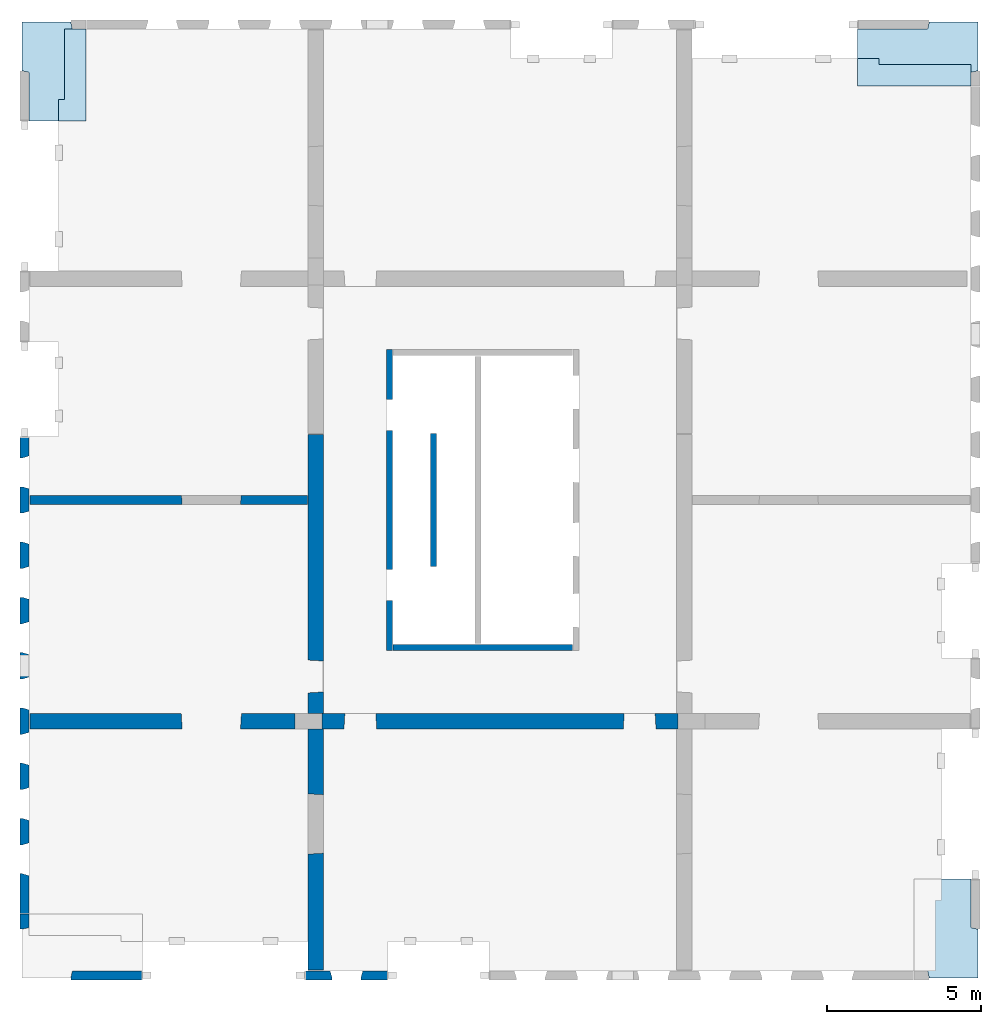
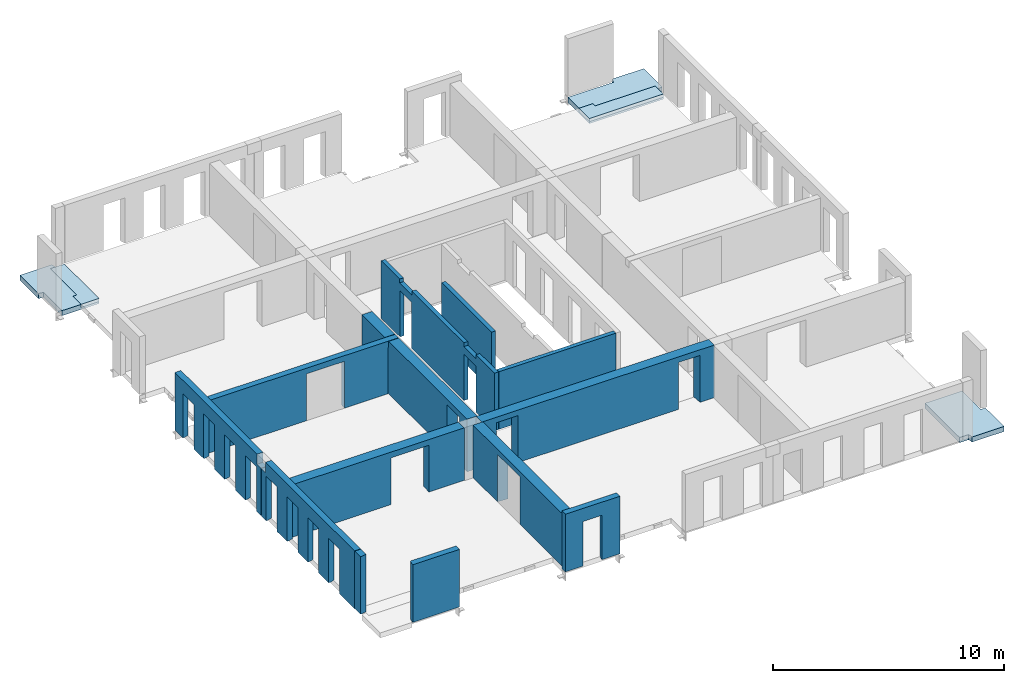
# One storey, part 2 of 4: 13 walls, 5 slabs, 25 openings.
"""IFC2X3 building model written with IfcOpenShell, lengths in millimetres."""

import ifcopenshell
import ifcopenshell.guid

model = None  # the IFC model being written
_history = None  # IfcOwnerHistory: only IFC2X3 demands one
_inside = {}  # id of a spatial element -> (the spatial element, [elements in it])
_under = {}  # id of a project, library or spatial element -> (it, [spatial elements below it])
_declared = {}  # id of a project -> (the project, [libraries it declares])
_typed = {}  # id of a type object -> (the type object, [elements of that type])
_made_of = {}  # id of a material, layer set ... -> (it, [elements and type objects made of it])


def new_model(schema):
    """Start an empty IFC model of exactly this schema.

    Asked for "IFC4X3", IfcOpenShell would pick the latest addendum, in which some entities
    have other attributes; the version numbers below select the first issue.
    IFC2X3 requires an IfcOwnerHistory on every rooted entity: one is made here for all.
    """
    global model, _history
    if schema == "IFC4X3":
        model = ifcopenshell.file(schema_version=(4, 3, 0, 0))
    else:
        model = ifcopenshell.file(schema=schema)
    _inside.clear()
    _under.clear()
    _declared.clear()
    _typed.clear()
    _made_of.clear()
    _history = None
    if model.schema == "IFC2X3":
        org = make("IfcOrganization", Name="unknown")
        user = make(
            "IfcPersonAndOrganization",
            ThePerson=make("IfcPerson", FamilyName="unknown"),
            TheOrganization=org,
        )
        app = make(
            "IfcApplication",
            ApplicationDeveloper=org,
            Version="unknown",
            ApplicationFullName="unknown",
            ApplicationIdentifier="unknown",
        )
        _history = make(
            "IfcOwnerHistory",
            OwningUser=user,
            OwningApplication=app,
            ChangeAction="ADDED",
            CreationDate=0,
        )
    return model


def make(cls, **values):
    """One entity of the class cls with the attributes given. An attribute that is None is left unset."""
    return model.create_entity(
        cls, **{name: value for name, value in values.items() if value is not None}
    )


def entity(cls, *values):
    """Any entity or typed value of the class cls, its attributes in the order of the schema. None: left unset."""
    e = model.create_entity(cls)
    for i, value in enumerate(values):
        if value is not None:
            e[i] = value
    return e


def rooted(cls, **values):
    """An entity with a GlobalId (a new one), such as an element, a storey or a relation."""
    return make(cls, GlobalId=ifcopenshell.guid.new(), OwnerHistory=_history, **values)


def si_unit(unit_type, name, prefix=None):
    """IfcSIUnit, for example si_unit("LENGTHUNIT", "METRE", prefix="MILLI")."""
    return make("IfcSIUnit", UnitType=unit_type, Prefix=prefix, Name=name)


def converted_unit(unit_type, name, factor, base, dimensions=None, offset=None):
    """IfcConversionBasedUnit, such as the inch: factor (a typed value) times the base unit."""
    return make(
        "IfcConversionBasedUnit"
        if offset is None
        else "IfcConversionBasedUnitWithOffset",
        ConversionOffset=offset,
        Dimensions=None
        if dimensions is None
        else entity("IfcDimensionalExponents", *dimensions),
        UnitType=unit_type,
        Name=name,
        ConversionFactor=make(
            "IfcMeasureWithUnit", ValueComponent=factor, UnitComponent=base
        ),
    )


def derived_unit(unit_type, elements):
    """IfcDerivedUnit: a product of units, each with its exponent."""
    return make(
        "IfcDerivedUnit",
        Elements=[
            make("IfcDerivedUnitElement", Unit=unit, Exponent=power)
            for unit, power in elements
        ],
        UnitType=unit_type,
    )


def assignment(units):
    """IfcUnitAssignment: the units of a project."""
    return None if units is None else make("IfcUnitAssignment", Units=units)


def point(xyz):
    """IfcCartesianPoint."""
    return None if xyz is None else make("IfcCartesianPoint", Coordinates=xyz)


def direction(xyz):
    """IfcDirection."""
    return None if xyz is None else make("IfcDirection", DirectionRatios=xyz)


def frame(location, z_axis=None, x_axis=None):
    """IfcAxis2Placement3D, a coordinate frame: its origin and axes. An axis left out is left unset."""
    return make(
        "IfcAxis2Placement3D",
        Location=point(location),
        Axis=direction(z_axis),
        RefDirection=direction(x_axis),
    )


def frame_2d(location, x_axis=None):
    """IfcAxis2Placement2D, a coordinate frame in the plane: its origin and x axis."""
    return make(
        "IfcAxis2Placement2D", Location=point(location), RefDirection=direction(x_axis)
    )


def origin():
    """The frame at (0, 0, 0) with its axes left unset."""
    return frame((0.0, 0.0, 0.0))


def place(relative_to, where):
    """IfcLocalPlacement: puts the frame where relative to a parent placement (None: the world)."""
    return make(
        "IfcLocalPlacement", PlacementRelTo=relative_to, RelativePlacement=where
    )


def context(
    kind, dimensions, precision=None, world=None, true_north=None, identifier=None
):
    """IfcGeometricRepresentationContext, for example the 3D "Model" context."""
    return make(
        "IfcGeometricRepresentationContext",
        ContextIdentifier=identifier,
        ContextType=kind,
        CoordinateSpaceDimension=dimensions,
        Precision=precision,
        WorldCoordinateSystem=world,
        TrueNorth=true_north,
    )


def subcontext(parent, identifier, kind, view, scale=None):
    """IfcGeometricRepresentationSubContext, for example "Body" below "Model"."""
    return make(
        "IfcGeometricRepresentationSubContext",
        ContextIdentifier=identifier,
        ContextType=kind,
        ParentContext=parent,
        TargetScale=scale,
        TargetView=view,
    )


def project(units=None, contexts=None):
    """IfcProject with its units and contexts."""
    return rooted(
        "IfcProject",
        Name="project",
        RepresentationContexts=contexts,
        UnitsInContext=assignment(units),
    )


def spatial(cls, under=None, at=None, **own):
    """A site, building, storey or space (cls), placed at a placement, below another one or the project."""
    s = rooted(cls, ObjectPlacement=at, **own)
    if under is not None:
        _under.setdefault(under.id(), (under, []))[1].append(s)
    return s


def polyline(points):
    """IfcPolyline through the points."""
    return make("IfcPolyline", Points=[point(p) for p in points])


def profile(cls, at=None, kind="AREA", **sizes):
    """A parametric profile (cls). Its sizes go by their IFC names, for example OverallWidth=200.0."""
    return make(cls, ProfileType=kind, Position=at, **sizes)


def rectangle(**sizes):
    """IfcRectangleProfileDef."""
    return profile("IfcRectangleProfileDef", **sizes)


def outline(outer, holes=None, kind="AREA"):
    """IfcArbitraryClosedProfileDef: a profile drawn as a closed curve; with holes, ...WithVoids."""
    if holes is None:
        return make("IfcArbitraryClosedProfileDef", ProfileType=kind, OuterCurve=outer)
    return make(
        "IfcArbitraryProfileDefWithVoids",
        ProfileType=kind,
        OuterCurve=outer,
        InnerCurves=holes,
    )


def extrude(swept, where, along, depth):
    """IfcExtrudedAreaSolid: the profile swept, set in the frame where, extruded along a direction by depth."""
    return make(
        "IfcExtrudedAreaSolid",
        SweptArea=swept,
        Position=where,
        ExtrudedDirection=direction(along),
        Depth=depth,
    )


def faces_of(points, faces, orient=None, outer=None):
    """IfcFace entities. A face is a list of loops; a loop is a list of indices into points, from 0.

    orient and outer hold one flag for each loop. By default every Orientation is true, the
    first loop of a face is its IfcFaceOuterBound and the others are IfcFaceBound.
    """
    made = []
    for i, loops in enumerate(faces):
        bounds = []
        for j, loop in enumerate(loops):
            is_outer = j == 0 if outer is None else outer[i][j]
            bounds.append(
                make(
                    "IfcFaceOuterBound" if is_outer else "IfcFaceBound",
                    Bound=make("IfcPolyLoop", Polygon=[points[k] for k in loop]),
                    Orientation=True if orient is None else orient[i][j],
                )
            )
        made.append(make("IfcFace", Bounds=bounds))
    return made


def faceted_brep(points, faces, orient=None, outer=None, voids=None):
    """IfcFacetedBrep: a solid bounded by flat faces; with voids (closed shells), ...WithVoids."""
    shared = [point(p) for p in points]
    hull = make("IfcClosedShell", CfsFaces=faces_of(shared, faces, orient, outer))
    if voids is None:
        return make("IfcFacetedBrep", Outer=hull)
    return make(
        "IfcFacetedBrepWithVoids",
        Outer=hull,
        Voids=[
            make(cls, CfsFaces=faces_of(shared, fs, o, b)) for cls, fs, o, b in voids
        ],
    )


def shape(context_of_items, identifier, shape_type, items):
    """IfcShapeRepresentation: the items that make up one representation, for example the "Body"."""
    return make(
        "IfcShapeRepresentation",
        ContextOfItems=context_of_items,
        RepresentationIdentifier=identifier,
        RepresentationType=shape_type,
        Items=items,
    )


def material(Name=None, Category=None):
    """IfcMaterial."""
    return make("IfcMaterial", Name=Name, Category=Category)


def layer(
    of_material, thickness, ventilated=None, Name=None, Category=None, Priority=None
):
    """IfcMaterialLayer: one layer of a wall or slab, of a material (None: an air gap)."""
    return make(
        "IfcMaterialLayer",
        Material=of_material,
        LayerThickness=thickness,
        IsVentilated=ventilated,
        Name=Name,
        Category=Category,
        Priority=Priority,
    )


def layer_set(layers, Name=None):
    """IfcMaterialLayerSet."""
    return make("IfcMaterialLayerSet", MaterialLayers=layers, LayerSetName=Name)


def layer_usage(for_layer_set, set_direction, sense, offset, extent=None):
    """IfcMaterialLayerSetUsage: how a layer set lies in its element."""
    return make(
        "IfcMaterialLayerSetUsage",
        ForLayerSet=for_layer_set,
        LayerSetDirection=set_direction,
        DirectionSense=sense,
        OffsetFromReferenceLine=offset,
        ReferenceExtent=extent,
    )


def made_of(thing, what):
    """Note that an element or type object is made of a material, layer set ...; save() writes the relation."""
    if what is not None:
        _made_of.setdefault(what.id(), (what, []))[1].append(thing)
    return thing


def type_object(cls, material=None, **own):
    """A type object (cls), such as IfcWallType, which elements share."""
    return made_of(rooted(cls, **own), material)


def element(
    cls,
    number,
    at=None,
    inside=None,
    cuts=None,
    type_object=None,
    material=None,
    context=None,
    identifier="Body",
    shape_type=None,
    held_by="IfcProductDefinitionShape",
    body=None,
    shapes=None,
    **own,
):
    """One element of the class cls, such as IfcWall. Its Tag is "e" and its number.

    at: its placement. inside: the storey or other place that contains it. cuts: it is an
    opening in that element (IfcRelVoidsElement). A single representation is given by context,
    identifier, shape_type and body (its items); several are given by shapes. held_by: the class
    of the entity that holds the representations. save() writes the other relations.
    """
    e = rooted(cls, Tag="e%d" % number, ObjectPlacement=at, **own)
    if body is not None:
        shapes = [shape(context, identifier, shape_type, body)]
    if shapes is not None:
        e.Representation = make(held_by, Representations=shapes)
    if inside is not None:
        _inside.setdefault(inside.id(), (inside, []))[1].append(e)
    if cuts is not None:
        rooted(
            "IfcRelVoidsElement", RelatingBuildingElement=cuts, RelatedOpeningElement=e
        )
    if type_object is not None:
        _typed.setdefault(type_object.id(), (type_object, []))[1].append(e)
    return made_of(e, material)


def aggregate(whole, parts):
    """IfcRelAggregates: a whole, such as a stair, and the parts it consists of."""
    return rooted("IfcRelAggregates", RelatingObject=whole, RelatedObjects=parts)


def save(model, path):
    """Write the relations noted so far, then the file.

    IfcRelAggregates (storeys below a building ...), IfcRelContainedInSpatialStructure (elements
    in a storey), IfcRelDefinesByType, IfcRelAssociatesMaterial and IfcRelDeclares: one each for
    every whole, place, type object, material and project.
    """
    for whole, parts in _under.values():
        aggregate(whole, parts)
    for where, things in _inside.values():
        rooted(
            "IfcRelContainedInSpatialStructure",
            RelatedElements=things,
            RelatingStructure=where,
        )
    for kind, things in _typed.values():
        rooted("IfcRelDefinesByType", RelatedObjects=things, RelatingType=kind)
    for what, things in _made_of.values():
        rooted("IfcRelAssociatesMaterial", RelatedObjects=things, RelatingMaterial=what)
    for by, libraries in _declared.values():
        rooted("IfcRelDeclares", RelatingContext=by, RelatedDefinitions=libraries)
    model.write(path)


model = new_model("IFC2X3")

# Units and contexts
model_context = context("Model", 3, precision=0.01, world=origin(), true_north=direction((6.12303176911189e-17, 1.0)))
body_context = subcontext(model_context, "Body", "Model", "MODEL_VIEW")
ifc_project = project(units=[si_unit("LENGTHUNIT", "METRE", prefix="MILLI"), si_unit("AREAUNIT", "SQUARE_METRE"), si_unit("VOLUMEUNIT", "CUBIC_METRE"), converted_unit("PLANEANGLEUNIT", "DEGREE", entity("IfcRatioMeasure", 0.0174532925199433), si_unit("PLANEANGLEUNIT", "RADIAN"), dimensions=[0, 0, 0, 0, 0, 0, 0]), si_unit("MASSUNIT", "GRAM", prefix="KILO"), derived_unit("MASSDENSITYUNIT", [(si_unit("MASSUNIT", "GRAM", prefix="KILO"), 1), (si_unit("LENGTHUNIT", "METRE"), -3)]), si_unit("TIMEUNIT", "SECOND"), si_unit("FREQUENCYUNIT", "HERTZ"), si_unit("THERMODYNAMICTEMPERATUREUNIT", "DEGREE_CELSIUS"), derived_unit("THERMALTRANSMITTANCEUNIT", [(si_unit("MASSUNIT", "GRAM", prefix="KILO"), 1), (si_unit("THERMODYNAMICTEMPERATUREUNIT", "KELVIN"), -1), (si_unit("TIMEUNIT", "SECOND"), -3)]), derived_unit("VOLUMETRICFLOWRATEUNIT", [(si_unit("LENGTHUNIT", "METRE"), 3), (si_unit("TIMEUNIT", "SECOND"), -1)]), si_unit("ELECTRICCURRENTUNIT", "AMPERE"), si_unit("ELECTRICVOLTAGEUNIT", "VOLT"), si_unit("POWERUNIT", "WATT"), si_unit("FORCEUNIT", "NEWTON", prefix="KILO"), si_unit("ILLUMINANCEUNIT", "LUX"), si_unit("LUMINOUSFLUXUNIT", "LUMEN"), si_unit("LUMINOUSINTENSITYUNIT", "CANDELA"), derived_unit("USERDEFINED", [(si_unit("MASSUNIT", "GRAM", prefix="KILO"), -1), (si_unit("LENGTHUNIT", "METRE"), -2), (si_unit("TIMEUNIT", "SECOND"), 3), (si_unit("LUMINOUSFLUXUNIT", "LUMEN"), 1)]), derived_unit("LINEARVELOCITYUNIT", [(si_unit("LENGTHUNIT", "METRE"), 1), (si_unit("TIMEUNIT", "SECOND"), -1)]), si_unit("PRESSUREUNIT", "PASCAL"), derived_unit("USERDEFINED", [(si_unit("LENGTHUNIT", "METRE"), -2), (si_unit("MASSUNIT", "GRAM", prefix="KILO"), 1), (si_unit("TIMEUNIT", "SECOND"), -2)])], contexts=[model_context])

# Site, building, storey
site_placement = place(None, origin())
site = spatial("IfcSite", under=ifc_project, at=site_placement, Name="Default", CompositionType="ELEMENT")
building_placement = place(site_placement, origin())
building = spatial("IfcBuilding", under=site, at=building_placement, Name="niet gebruiken", CompositionType="ELEMENT")
storey_placement = place(building_placement, frame((0.0, 0.0, 45540.0)))
storey = spatial("IfcBuildingStorey", under=building, at=storey_placement, Name="14 veertiende verdieping", CompositionType="ELEMENT", Elevation=45540.0)

# Slabs
ifc_material_1 = material(Name="NLRS_f2_beton prefab")
ifc_layer_1 = layer(ifc_material_1, 270.0)
ifc_layer_set_1 = layer_set([ifc_layer_1], Name="Floor:NLRS_23.22_FL_beton prefab d=270 3D element_gen")
ifc_layer_usage_1 = layer_usage(ifc_layer_set_1, "AXIS3", "POSITIVE", 0.0)
slab_1_placement = place(storey_placement, origin())
element("IfcSlab", 1, at=slab_1_placement, inside=storey, material=ifc_layer_usage_1, Name="Floor:NLRS_23.22_FL_beton prefab d=270 3D element_gen", ObjectType="Floor:NLRS_23.22_FL_beton prefab d=270 3D element_gen", PredefinedType="LANDING", context=body_context, shape_type="SweptSolid", body=[
    extrude(outline(polyline([(-322.675940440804, -982.471394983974), (1267.47139498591, -982.471394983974), (1267.47139498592, 607.675940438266), (1034.47139498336, 655.152429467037), (1034.47139498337, 1100.5286050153), (-1955.52860501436, 1100.52860501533), (-1955.52860501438, -749.471394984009), (-370.152429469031, -749.471394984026), (-322.675940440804, -982.471394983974)])), frame((127169.471394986, 31795.5286050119, -90.0), z_axis=(0.0, 0.0, -1.0), x_axis=(0.0, 1.0, 0.0)), (0.0, 0.0, 1.0), 269.999999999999),
])
ifc_material_2 = material(Name="NLRS_f2_beton ihwg")
ifc_layer_2 = layer(ifc_material_2, 170.0)
ifc_layer_set_2 = layer_set([ifc_layer_2], Name="Floor:NLRS_23.21_FL_beton ihwg d=170_gen")
ifc_layer_usage_2 = layer_usage(ifc_layer_set_2, "AXIS3", "POSITIVE", 0.0)
slab_2_placement = place(storey_placement, origin())
element("IfcSlab", 2, at=slab_2_placement, inside=storey, material=ifc_layer_usage_2, Name="Floor:NLRS_23.21_FL_beton ihwg d=170_gen", ObjectType="Floor:NLRS_23.21_FL_beton ihwg d=170_gen", PredefinedType="FLOOR", context=body_context, shape_type="SweptSolid", body=[
    extrude(outline(polyline([(-1230.0, -366.666666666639), (-530.0, -366.666666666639), (-530.0, -166.66666666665), (1760.0, -166.666666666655), (1760.0, 533.333333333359), (-1230.0, 533.333333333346), (-1230.0, -366.666666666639)])), frame((127736.666666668, 31070.0, -90.0), z_axis=(0.0, 0.0, -1.0), x_axis=(0.0, 1.0, 0.0)), (0.0, 0.0, 1.0), 169.999999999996),
])
ifc_layer_usage_3 = layer_usage(ifc_layer_set_1, "AXIS3", "POSITIVE", 0.0)
slab_3_placement = place(storey_placement, origin())
element("IfcSlab", 3, at=slab_3_placement, inside=storey, material=ifc_layer_usage_3, Name="Floor:NLRS_23.22_FL_beton prefab d=270 3D element_gen", ObjectType="Floor:NLRS_23.22_FL_beton prefab d=270 3D element_gen", PredefinedType="LANDING", context=body_context, shape_type="SweptSolid", body=[
    extrude(outline(polyline([(-1034.47139498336, -1100.52860501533), (1955.52860501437, -1100.52860501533), (1955.52860501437, 749.471394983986), (370.152429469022, 749.471394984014), (322.675940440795, 982.471394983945), (-1267.47139498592, 982.471394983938), (-1267.47139498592, -607.675940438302), (-1034.47139498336, -655.152429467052), (-1034.47139498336, -1100.52860501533)])), frame((156330.528605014, 3204.47139498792, -90.0), z_axis=(0.0, 0.0, -1.0), x_axis=(0.0, 1.0, 0.0)), (0.0, 0.0, 1.0), 269.999999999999),
])
ifc_layer_usage_4 = layer_usage(ifc_layer_set_1, "AXIS3", "POSITIVE", 0.0)
slab_4_placement = place(storey_placement, origin())
element("IfcSlab", 4, at=slab_4_placement, inside=storey, material=ifc_layer_usage_4, Name="Floor:NLRS_23.22_FL_beton prefab d=270 3D element_gen", ObjectType="Floor:NLRS_23.22_FL_beton prefab d=270 3D element_gen", PredefinedType="LANDING", context=body_context, shape_type="SweptSolid", body=[
    extrude(outline(polyline([(-1100.52860501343, -2480.52860501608), (749.471394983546, -2480.52860501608), (749.471394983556, -195.152429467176), (982.471394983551, -147.675940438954), (982.471394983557, 1442.47139498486), (-607.675940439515, 1442.47139498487), (-655.152429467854, 1209.47139498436), (-1100.52860501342, 1209.47139498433), (-1100.52860501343, -2480.52860501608)])), frame((155870.528605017, 32080.5286050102, -90.0), z_axis=(0.0, 0.0, -1.0), x_axis=(0.0, 1.0, 0.0)), (0.0, 0.0, 1.0), 269.999999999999),
])
ifc_layer_usage_5 = layer_usage(ifc_layer_set_2, "AXIS3", "POSITIVE", 0.0)
slab_5_placement = place(storey_placement, origin())
element("IfcSlab", 5, at=slab_5_placement, inside=storey, material=ifc_layer_usage_5, Name="Floor:NLRS_23.21_FL_beton ihwg d=170_gen", ObjectType="Floor:NLRS_23.21_FL_beton ihwg d=170_gen", PredefinedType="FLOOR", context=body_context, shape_type="SweptSolid", body=[
    extrude(outline(polyline([(-533.333333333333, -1463.33333333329), (366.666666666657, -1463.33333333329), (366.666666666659, -763.333333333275), (166.66666666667, -763.333333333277), (166.666666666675, 2226.66666666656), (-533.333333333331, 2226.66666666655), (-533.333333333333, -1463.33333333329)])), frame((154853.333333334, 31513.3333333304, -90.0), z_axis=(0.0, 0.0, -1.0), x_axis=(0.0, 1.0, 0.0)), (0.0, 0.0, 1.0), 169.999999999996),
])

# Wall, openings
ifc_layer_3 = layer(ifc_material_1, 200.0)
ifc_layer_set_3 = layer_set([ifc_layer_3], Name="Basic Wall:NLRS_22.21_WA_beton prefab d=200_gen")
ifc_layer_usage_6 = layer_usage(ifc_layer_set_3, "AXIS2", "NEGATIVE", 100.0)
wall_type_1 = type_object("IfcWallType", Name="Basic Wall:NLRS_22.21_WA_beton prefab d=200_gen", PredefinedType="STANDARD", material=ifc_layer_set_3)
wall_1_placement = place(storey_placement, frame((138150.0, 22400.0, -50.0), z_axis=(0.0, 0.0, 1.0), x_axis=(0.0, -1.0, 0.0)))
wall_1 = element("IfcWallStandardCase", 6, at=wall_1_placement, inside=storey, type_object=wall_type_1, material=ifc_layer_usage_6, Name="Basic Wall:NLRS_22.21_WA_beton prefab d=200_gen", ObjectType="Basic Wall:NLRS_22.21_WA_beton prefab d=200_gen", context=body_context, shape_type="SweptSolid", body=[
    extrude(rectangle(XDim=9800.0, YDim=199.999999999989, at=frame_2d((4900.0, 3.76587649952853e-13), x_axis=(-1.0, 0.0))), origin(), (0.0, 0.0, 1.0), 3040.0),
])
opening_1_placement = place(wall_1_placement, origin())
element("IfcOpeningElement", 7, at=opening_1_placement, cuts=wall_1, Name="Basic Wall:NLRS_22.21_WA_beton prefab d=200_gen", ObjectType="Opening", context=body_context, shape_type="SweptSolid", body=[
    extrude(rectangle(XDim=199.999999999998, YDim=1044.0, at=frame_2d((4.33431068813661e-12, 0.0), x_axis=(1.0, 0.0))), frame((7672.0, -100.0, 2940.0), z_axis=(0.0, 1.0, 0.0), x_axis=(0.0, 0.0, -1.0)), (0.0, 0.0, 1.0), 199.999999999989),
])
opening_2_placement = place(wall_1_placement, origin())
element("IfcOpeningElement", 8, at=opening_2_placement, cuts=wall_1, Name="Basic Wall:NLRS_22.21_WA_beton prefab d=200_gen", ObjectType="Opening", context=body_context, shape_type="SweptSolid", body=[
    extrude(rectangle(XDim=199.999999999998, YDim=1044.0, at=frame_2d((4.33431068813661e-12, 2.1600499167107e-12), x_axis=(1.0, 0.0))), frame((2128.0, -100.0, 2940.0), z_axis=(0.0, 1.0, 0.0), x_axis=(0.0, 0.0, -1.0)), (0.0, 0.0, 1.0), 199.999999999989),
])
opening_3_placement = place(wall_1_placement, origin())
element("IfcOpeningElement", 9, at=opening_3_placement, cuts=wall_1, Name="Basic Wall:NLRS_22.21_WA_beton prefab d=200_gen", ObjectType="Opening", context=body_context, shape_type="SweptSolid", body=[
    extrude(rectangle(XDim=2435.00000000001, YDim=1015.99999999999, at=frame_2d((4.32009983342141e-12, 1.10844666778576e-12), x_axis=(1.0, 0.0))), frame((7672.0, -100.0, 1217.50000000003), z_axis=(0.0, 1.0, 0.0), x_axis=(0.0, 0.0, -1.0)), (0.0, 0.0, 1.0), 199.999999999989),
])
opening_4_placement = place(wall_1_placement, origin())
element("IfcOpeningElement", 10, at=opening_4_placement, cuts=wall_1, Name="Basic Wall:NLRS_22.21_WA_beton prefab d=200_gen", ObjectType="Opening", context=body_context, shape_type="SweptSolid", body=[
    extrude(rectangle(XDim=2435.00000000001, YDim=1015.99999999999, at=frame_2d((4.32009983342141e-12, -2.18847162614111e-12), x_axis=(1.0, 0.0))), frame((2128.0, -100.0, 1217.50000000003), z_axis=(0.0, 1.0, 0.0), x_axis=(0.0, 0.0, -1.0)), (0.0, 0.0, 1.0), 199.999999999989),
])

# Walls
ifc_layer_usage_7 = layer_usage(ifc_layer_set_3, "AXIS2", "NEGATIVE", 100.0)
wall_2_placement = place(storey_placement, frame((139590.0, 19660.0, -50.0), z_axis=(0.0, 0.0, 1.0), x_axis=(0.0, -1.0, 0.0)))
element("IfcWallStandardCase", 11, at=wall_2_placement, inside=storey, type_object=wall_type_1, material=ifc_layer_usage_7, Name="Basic Wall:NLRS_22.21_WA_beton prefab d=200_gen", ObjectType="Basic Wall:NLRS_22.21_WA_beton prefab d=200_gen", context=body_context, shape_type="SweptSolid", body=[
    extrude(rectangle(XDim=4320.00000000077, YDim=199.999999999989, at=frame_2d((2160.00000000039, 0.0), x_axis=(-1.0, 0.0))), origin(), (0.0, 0.0, 1.0), 3040.0),
])
ifc_layer_usage_8 = layer_usage(ifc_layer_set_3, "AXIS2", "NEGATIVE", 100.0)
wall_3_placement = place(storey_placement, frame((138270.0, 12700.0, -50.0)))
element("IfcWallStandardCase", 12, at=wall_3_placement, inside=storey, type_object=wall_type_1, material=ifc_layer_usage_8, Name="Basic Wall:NLRS_22.21_WA_beton prefab d=200_gen", ObjectType="Basic Wall:NLRS_22.21_WA_beton prefab d=200_gen", context=body_context, shape_type="SweptSolid", body=[
    extrude(rectangle(XDim=5839.99999999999, YDim=199.999999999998, at=frame_2d((2919.99999999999, -6.82121026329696e-13), x_axis=(-1.0, 0.0))), origin(), (0.0, 0.0, 1.0), 3040.0),
])

# Wall, openings
ifc_layer_4 = layer(ifc_material_1, 300.0)
ifc_layer_set_4 = layer_set([ifc_layer_4], Name="Basic Wall:NLRS_22.21_WA_beton prefab d=300_gen")
ifc_layer_usage_9 = layer_usage(ifc_layer_set_4, "AXIS2", "NEGATIVE", 150.0)
wall_type_2 = type_object("IfcWallType", Name="Basic Wall:NLRS_22.21_WA_beton prefab d=300_gen", PredefinedType="STANDARD", material=ifc_layer_set_4)
wall_4_placement = place(storey_placement, frame((126440.0, 17500.0, -70.0)))
wall_4 = element("IfcWallStandardCase", 13, at=wall_4_placement, inside=storey, type_object=wall_type_2, material=ifc_layer_usage_9, Name="Basic Wall:NLRS_22.21_WA_beton prefab d=300_gen", ObjectType="Basic Wall:NLRS_22.21_WA_beton prefab d=300_gen", context=body_context, shape_type="SweptSolid", body=[
    extrude(rectangle(XDim=9559.99999999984, YDim=300.000000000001, at=frame_2d((4779.99999999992, 4.68958205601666e-13), x_axis=(-1.0, 0.0))), origin(), (0.0, 0.0, 1.0), 2769.99999999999),
])
opening_5_placement = place(wall_4_placement, frame((4942.0, -150.0, 0.0)))
element("IfcOpeningElement", 14, at=opening_5_placement, cuts=wall_4, Name="Basic Wall:NLRS_22.21_WA_beton prefab d=300_gen", ObjectType="Opening", context=body_context, shape_type="Brep", body=[
    faceted_brep([(1918.0, 0.0, 2470.0), (18.0, 0.0, 2470.0), (18.0, 0.0, 0.0), (1918.0, 0.0, 0.0), (1936.0, 300.0, 2488.0), (1936.0, 300.0, 0.0), (0.0, 300.0, 0.0), (0.0, 300.0, 2488.0)], [[[0, 1, 2, 3]], [[4, 5, 6, 7]], [[4, 7, 1, 0]], [[7, 6, 2, 1]], [[6, 5, 3, 2]], [[5, 4, 0, 3]]]),
])
opening_6_placement = place(wall_4_placement, origin())
element("IfcOpeningElement", 15, at=opening_6_placement, cuts=wall_4, Name="Basic Wall:NLRS_22.21_WA_beton prefab d=300_gen", ObjectType="Opening", context=body_context, shape_type="SweptSolid", body=[
    extrude(rectangle(XDim=2440.0, YDim=520.00000000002, at=frame_2d((0.0, 0.0), x_axis=(0.0, 1.0))), frame((9300.0, 150.0, 1220.0), z_axis=(0.0, -1.0, 0.0), x_axis=(1.0, 0.0, 0.0)), (0.0, 0.0, 1.0), 300.0),
])

ifc_layer_5 = layer(ifc_material_1, 500.0)
ifc_layer_set_5 = layer_set([ifc_layer_5], Name="Basic Wall:NLRS_22.21_WA_beton prefab d=500_gen")
ifc_layer_usage_10 = layer_usage(ifc_layer_set_5, "AXIS2", "NEGATIVE", 250.0)
wall_type_3 = type_object("IfcWallType", Name="Basic Wall:NLRS_22.21_WA_beton prefab d=500_gen", PredefinedType="STANDARD", material=ifc_layer_set_5)
wall_5_placement = place(storey_placement, frame((135950.003540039, 10300.0, -70.0)))
wall_5 = element("IfcWallStandardCase", 16, at=wall_5_placement, inside=storey, type_object=wall_type_3, material=ifc_layer_usage_10, Name="Basic Wall:NLRS_22.21_WA_beton prefab d=500_gen", ObjectType="Basic Wall:NLRS_22.21_WA_beton prefab d=500_gen", context=body_context, shape_type="SweptSolid", body=[
    extrude(rectangle(XDim=11599.9964599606, YDim=499.999999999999, at=frame_2d((5799.99822998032, 1.4210854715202e-13), x_axis=(-1.0, 0.0))), origin(), (0.0, 0.0, 1.0), 2770.00000000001),
])
opening_7_placement = place(wall_5_placement, frame((719.996459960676, -250.0, 0.0)))
element("IfcOpeningElement", 17, at=opening_7_placement, cuts=wall_5, Name="Basic Wall:NLRS_22.21_WA_beton prefab d=500_gen", ObjectType="Opening", context=body_context, shape_type="Brep", body=[
    faceted_brep([(0.0, 0.0, 2478.0), (30.0, 500.0, 2448.0), (30.0, 500.0, 0.0), (0.0, 0.0, 0.0), (1036.0, 500.0, 0.0), (1066.0, 0.0, 0.0), (1036.0, 500.0, 2448.0), (1066.0, 0.0, 2478.0)], [[[0, 1, 2, 3]], [[3, 2, 4, 5]], [[6, 4, 2, 1]], [[7, 0, 3, 5]], [[7, 6, 1, 0]], [[5, 4, 6, 7]]]),
])
opening_8_placement = place(wall_5_placement, frame((9813.99645996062, -250.0, 0.0)))
element("IfcOpeningElement", 18, at=opening_8_placement, cuts=wall_5, Name="Basic Wall:NLRS_22.21_WA_beton prefab d=500_gen", ObjectType="Opening", context=body_context, shape_type="Brep", body=[
    faceted_brep([(0.0, 0.0, 2478.0), (30.0, 500.0, 2448.0), (30.0, 500.0, 0.0), (0.0, 0.0, 0.0), (1036.0, 500.0, 0.0), (1066.0, 0.0, 0.0), (1036.0, 500.0, 2448.0), (1066.0, 0.0, 2478.0)], [[[0, 1, 2, 3]], [[3, 2, 4, 5]], [[6, 4, 2, 1]], [[7, 0, 3, 5]], [[7, 6, 1, 0]], [[5, 4, 6, 7]]]),
])

ifc_layer_usage_11 = layer_usage(ifc_layer_set_5, "AXIS2", "NEGATIVE", 250.0)
wall_6_placement = place(storey_placement, frame((135750.0, 19640.0, -70.0), z_axis=(0.0, 0.0, 1.0), x_axis=(0.0, -1.0, 0.0)))
wall_6 = element("IfcWallStandardCase", 19, at=wall_6_placement, inside=storey, type_object=wall_type_3, material=ifc_layer_usage_11, Name="Basic Wall:NLRS_22.21_WA_beton prefab d=500_gen", ObjectType="Basic Wall:NLRS_22.21_WA_beton prefab d=500_gen", context=body_context, shape_type="SweptSolid", body=[
    extrude(rectangle(XDim=9089.98844925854, YDim=499.99999999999, at=frame_2d((4544.99422462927, -7.105427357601e-14), x_axis=(-1.0, 0.0))), origin(), (0.0, 0.0, 1.0), 2770.00000000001),
])
opening_9_placement = place(wall_6_placement, frame((8420.0, -250.0, 0.0)))
element("IfcOpeningElement", 20, at=opening_9_placement, cuts=wall_6, Name="Basic Wall:NLRS_22.21_WA_beton prefab d=500_gen", ObjectType="Opening", context=body_context, shape_type="Brep", body=[
    faceted_brep([(-1066.0, 0.0, 2478.0), (-1036.0, 500.0, 2448.0), (-1036.0, 500.0, 0.0), (-1066.0, 0.0, 0.0), (-30.0, 500.0, 0.0), (0.0, 0.0, 0.0), (-30.0, 500.0, 2448.0), (0.0, 0.0, 2478.0)], [[[0, 1, 2, 3]], [[3, 2, 4, 5]], [[6, 4, 2, 1]], [[7, 0, 3, 5]], [[7, 6, 1, 0]], [[5, 4, 6, 7]]]),
])
opening_10_placement = place(wall_6_placement, origin())
element("IfcOpeningElement", 21, at=opening_10_placement, cuts=wall_6, Name="Basic Wall:NLRS_22.21_WA_beton prefab d=500_gen", ObjectType="Opening", context=body_context, shape_type="SweptSolid", body=[
    extrude(rectangle(XDim=350.000000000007, YDim=339.999999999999, at=frame_2d((-1.08002495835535e-12, 0.0), x_axis=(0.0, 1.0))), frame((2140.0, 250.0, 2595.0), z_axis=(0.0, -1.0, 0.0), x_axis=(-1.0, 0.0, 0.0)), (0.0, 0.0, 1.0), 500.0),
])

# Wall, opening
ifc_layer_usage_12 = layer_usage(ifc_layer_set_5, "AXIS2", "NEGATIVE", 250.0)
wall_7_placement = place(storey_placement, frame((135750.0, 10050.0115507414, -70.0), z_axis=(0.0, 0.0, 1.0), x_axis=(0.0, -1.0, 0.0)))
wall_7 = element("IfcWallStandardCase", 22, at=wall_7_placement, inside=storey, type_object=wall_type_3, material=ifc_layer_usage_12, Name="Basic Wall:NLRS_22.21_WA_beton prefab d=500_gen", ObjectType="Basic Wall:NLRS_22.21_WA_beton prefab d=500_gen", context=body_context, shape_type="SweptSolid", body=[
    extrude(rectangle(XDim=7860.01155074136, YDim=499.99999999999, at=frame_2d((3930.00577537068, -3.12638803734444e-13), x_axis=(-1.0, 0.0))), origin(), (0.0, 0.0, 1.0), 2769.99999999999),
])
opening_11_placement = place(wall_7_placement, frame((4080.0115507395, -250.0, 0.0)))
element("IfcOpeningElement", 23, at=opening_11_placement, cuts=wall_7, Name="Basic Wall:NLRS_22.21_WA_beton prefab d=500_gen", ObjectType="Opening", context=body_context, shape_type="Brep", body=[
    faceted_brep([(-30.0, 500.0, 2470.0), (-30.0, 500.0, 0.0), (-1930.0, 500.0, 0.0), (-1930.0, 500.0, 2470.0), (0.0, 0.0, 2500.0), (-1960.0, 0.0, 2500.0), (-1960.0, 0.0, 0.0), (0.0, 0.0, 0.0)], [[[0, 1, 2, 3]], [[4, 5, 6, 7]], [[4, 0, 3, 5]], [[5, 3, 2, 6]], [[6, 2, 1, 7]], [[7, 1, 0, 4]]]),
])

ifc_layer_usage_13 = layer_usage(ifc_layer_set_5, "AXIS2", "NEGATIVE", 250.0)
wall_8_placement = place(storey_placement, frame((126440.0, 10300.0, -70.0)))
wall_8 = element("IfcWallStandardCase", 24, at=wall_8_placement, inside=storey, type_object=wall_type_3, material=ifc_layer_usage_13, Name="Basic Wall:NLRS_22.21_WA_beton prefab d=500_gen", ObjectType="Basic Wall:NLRS_22.21_WA_beton prefab d=500_gen", context=body_context, shape_type="SweptSolid", body=[
    extrude(rectangle(XDim=8630.00354003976, YDim=499.999999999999, at=frame_2d((4315.00177001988, -2.8421709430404e-13), x_axis=(-1.0, 0.0))), origin(), (0.0, 0.0, 1.0), 2769.99999999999),
])
opening_12_placement = place(wall_8_placement, frame((4930.0, -250.0, 0.0)))
element("IfcOpeningElement", 25, at=opening_12_placement, cuts=wall_8, Name="Basic Wall:NLRS_22.21_WA_beton prefab d=500_gen", ObjectType="Opening", context=body_context, shape_type="Brep", body=[
    faceted_brep([(1930.0, 0.0, 2470.0), (30.0, 0.0, 2470.0), (30.0, 0.0, 0.0), (1930.0, 0.0, 0.0), (1960.0, 500.0, 2500.0), (1960.0, 500.0, 0.0), (0.0, 500.0, 0.0), (0.0, 500.0, 2500.0)], [[[0, 1, 2, 3]], [[4, 5, 6, 7]], [[4, 7, 1, 0]], [[7, 6, 2, 1]], [[6, 5, 3, 2]], [[5, 4, 0, 3]]]),
])

ifc_layer_6 = layer(ifc_material_1, 300.0)
ifc_layer_set_6 = layer_set([ifc_layer_6], Name="Basic Wall:NLRS_21.21_WA_beton prefab d=300/320_gen")
ifc_layer_usage_14 = layer_usage(ifc_layer_set_6, "AXIS2", "NEGATIVE", 150.0)
wall_type_4 = type_object("IfcWallType", Name="Basic Wall:NLRS_21.21_WA_beton prefab d=300/320_gen", PredefinedType="STANDARD", material=ifc_layer_set_6)
wall_9_placement = place(storey_placement, frame((138110.0, 2020.0, -50.0), z_axis=(0.0, 0.0, 1.0), x_axis=(-1.0, 0.0, 0.0)))
wall_9 = element("IfcWallStandardCase", 26, at=wall_9_placement, inside=storey, type_object=wall_type_4, material=ifc_layer_usage_14, Name="Basic Wall:NLRS_21.21_WA_beton prefab d=300/320_gen", ObjectType="Basic Wall:NLRS_21.21_WA_beton prefab d=300/320_gen", context=body_context, shape_type="SweptSolid", body=[
    extrude(rectangle(XDim=2720.00000000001, YDim=300.0, at=frame_2d((1360.0, -8.5265128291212e-14), x_axis=(-1.0, 0.0))), origin(), (0.0, 0.0, 1.0), 3040.0),
])
opening_13_placement = place(wall_9_placement, frame((1895.0, 150.0, -20.0)))
element("IfcOpeningElement", 27, at=opening_13_placement, cuts=wall_9, Name="Basic Wall:NLRS_21.21_WA_beton prefab d=300/320_gen", ObjectType="Opening", context=body_context, shape_type="Brep", body=[
    faceted_brep([(-1070.0, -300.0, 2405.0), (-1070.0, -300.0, 0.0), (0.0, -300.0, 0.0), (0.0, -300.0, 2405.0), (-65.0, -81.0, 2370.0), (-1005.0, -81.0, 2370.0), (-65.0, -81.0, 0.0), (-1005.0, -81.0, 0.0), (-1005.0, 0.0, 0.0), (-65.0, 0.0, 0.0), (-1005.0, 0.0, 2370.0), (-65.0, 0.0, 2370.0)], [[[0, 1, 2, 3]], [[3, 4, 5, 0]], [[2, 6, 4, 3]], [[1, 7, 8, 9, 6, 2]], [[0, 5, 7, 1]], [[10, 11, 9, 8]], [[10, 5, 4, 11]], [[11, 4, 6, 9]], [[8, 7, 5, 10]]]),
])

ifc_layer_usage_15 = layer_usage(ifc_layer_set_6, "AXIS2", "NEGATIVE", 150.0)
wall_10_placement = place(storey_placement, frame((130110.0, 2020.0, -50.0), z_axis=(0.0, 0.0, 1.0), x_axis=(-1.0, 0.0, 0.0)))
wall_10 = element("IfcWallStandardCase", 28, at=wall_10_placement, inside=storey, type_object=wall_type_4, material=ifc_layer_usage_15, Name="Basic Wall:NLRS_21.21_WA_beton prefab d=300/320_gen", ObjectType="Basic Wall:NLRS_21.21_WA_beton prefab d=300/320_gen", context=body_context, shape_type="SweptSolid", body=[
    extrude(rectangle(XDim=2330.00000000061, YDim=300.0, at=frame_2d((1165.00000000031, -5.6843418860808e-14), x_axis=(-1.0, 0.0))), origin(), (0.0, 0.0, 1.0), 3040.0),
])
opening_14_placement = place(wall_10_placement, frame((2330.0, 69.0, 0.0)))
element("IfcOpeningElement", 29, at=opening_14_placement, cuts=wall_10, Name="Basic Wall:NLRS_21.21_WA_beton prefab d=300/320_gen", ObjectType="Opening", context=body_context, shape_type="Brep", body=[
    faceted_brep([(0.0, -319.0, 3040.0), (0.0, 0.0, 3040.0), (-65.0, -319.0, 3040.0), (0.0, -319.0, 0.0), (-65.0, -319.0, 0.0), (0.0, 0.0, 0.0)], [[[0, 1, 2]], [[3, 4, 5]], [[2, 4, 3, 0]], [[0, 3, 5, 1]], [[1, 5, 4, 2]]]),
])

ifc_layer_usage_16 = layer_usage(ifc_layer_set_6, "AXIS2", "NEGATIVE", 150.0)
wall_11_placement = place(storey_placement, frame((126270.0, 3530.0, -50.0), z_axis=(0.0, 0.0, 1.0), x_axis=(0.0, 1.0, 0.0)))
wall_11 = element("IfcWallStandardCase", 30, at=wall_11_placement, inside=storey, type_object=wall_type_4, material=ifc_layer_usage_16, Name="Basic Wall:NLRS_21.21_WA_beton prefab d=300/320_gen", ObjectType="Basic Wall:NLRS_21.21_WA_beton prefab d=300/320_gen", context=body_context, shape_type="SweptSolid", body=[
    extrude(rectangle(XDim=489.999999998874, YDim=300.000000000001, at=frame_2d((244.999999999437, -3.25428572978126e-12), x_axis=(-1.0, 0.0))), origin(), (0.0, 0.0, 1.0), 3040.0),
])
opening_15_placement = place(wall_11_placement, frame((-1.97405825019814e-09, 69.0, 0.0)))
element("IfcOpeningElement", 31, at=opening_15_placement, cuts=wall_11, Name="Basic Wall:NLRS_21.21_WA_beton prefab d=300/320_gen", ObjectType="Opening", context=body_context, shape_type="Brep", body=[
    faceted_brep([(0.0, -319.0, 3040.0), (65.0, -319.0, 3040.0), (0.0, 0.0, 3040.0), (0.0, -319.0, 0.0), (0.0, 0.0, 0.0), (65.0, -319.0, 0.0)], [[[0, 1, 2]], [[3, 4, 5]], [[1, 0, 3, 5]], [[0, 2, 4, 3]], [[2, 1, 5, 4]]]),
])

# Wall, openings
ifc_layer_usage_17 = layer_usage(ifc_layer_set_6, "AXIS2", "NEGATIVE", 150.0)
wall_12_placement = place(storey_placement, frame((126270.0, 4040.0, -50.0), z_axis=(0.0, 0.0, 1.0), x_axis=(0.0, 1.0, 0.0)))
wall_12 = element("IfcWallStandardCase", 32, at=wall_12_placement, inside=storey, type_object=wall_type_4, material=ifc_layer_usage_17, Name="Basic Wall:NLRS_21.21_WA_beton prefab d=300/320_gen", ObjectType="Basic Wall:NLRS_21.21_WA_beton prefab d=300/320_gen", context=body_context, shape_type="SweptSolid", body=[
    extrude(rectangle(XDim=8049.99999999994, YDim=300.000000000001, at=frame_2d((4024.99999999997, 6.18172180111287e-12), x_axis=(-1.0, 0.0))), origin(), (0.0, 0.0, 1.0), 3039.99999999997),
])
opening_16_placement = place(wall_12_placement, frame((1225.0, 150.0, -20.0)))
element("IfcOpeningElement", 33, at=opening_16_placement, cuts=wall_12, Name="Basic Wall:NLRS_21.21_WA_beton prefab d=300/320_gen", ObjectType="Opening", context=body_context, shape_type="Brep", body=[
    faceted_brep([(0.0, -300.0, 2405.0), (0.0, -300.0, 0.0), (1070.0, -300.0, 0.0), (1070.0, -300.0, 2405.0), (1005.0, -81.0, 2370.0), (65.0, -81.0, 2370.0), (1005.0, -81.0, 0.0), (65.0, -81.0, 0.0), (65.0, 0.0, 0.0), (1005.0, 0.0, 0.0), (65.0, 0.0, 2370.0), (1005.0, 0.0, 2370.0)], [[[0, 1, 2, 3]], [[3, 4, 5, 0]], [[2, 6, 4, 3]], [[1, 7, 8, 9, 6, 2]], [[0, 5, 7, 1]], [[10, 11, 9, 8]], [[10, 5, 4, 11]], [[11, 4, 6, 9]], [[8, 7, 5, 10]]]),
])
opening_17_placement = place(wall_12_placement, frame((3025.0, 150.0, -20.0)))
element("IfcOpeningElement", 34, at=opening_17_placement, cuts=wall_12, Name="Basic Wall:NLRS_21.21_WA_beton prefab d=300/320_gen", ObjectType="Opening", context=body_context, shape_type="Brep", body=[
    faceted_brep([(0.0, -300.0, 2405.0), (0.0, -300.0, 0.0), (1070.0, -300.0, 0.0), (1070.0, -300.0, 2405.0), (1005.0, -81.0, 2370.0), (65.0, -81.0, 2370.0), (1005.0, -81.0, 0.0), (65.0, -81.0, 0.0), (65.0, 0.0, 0.0), (1005.0, 0.0, 0.0), (65.0, 0.0, 2370.0), (1005.0, 0.0, 2370.0)], [[[0, 1, 2, 3]], [[3, 4, 5, 0]], [[2, 6, 4, 3]], [[1, 7, 8, 9, 6, 2]], [[0, 5, 7, 1]], [[10, 11, 9, 8]], [[10, 5, 4, 11]], [[11, 4, 6, 9]], [[8, 7, 5, 10]]]),
])
opening_18_placement = place(wall_12_placement, frame((4825.0, 150.0, -20.0)))
element("IfcOpeningElement", 35, at=opening_18_placement, cuts=wall_12, Name="Basic Wall:NLRS_21.21_WA_beton prefab d=300/320_gen", ObjectType="Opening", context=body_context, shape_type="Brep", body=[
    faceted_brep([(0.0, -300.0, 2405.0), (0.0, -300.0, 0.0), (1070.0, -300.0, 0.0), (1070.0, -300.0, 2405.0), (1005.0, -81.0, 2370.0), (65.0, -81.0, 2370.0), (1005.0, -81.0, 0.0), (65.0, -81.0, 0.0), (65.0, 0.0, 0.0), (1005.0, 0.0, 0.0), (65.0, 0.0, 2370.0), (1005.0, 0.0, 2370.0)], [[[0, 1, 2, 3]], [[3, 4, 5, 0]], [[2, 6, 4, 3]], [[1, 7, 8, 9, 6, 2]], [[0, 5, 7, 1]], [[10, 11, 9, 8]], [[10, 5, 4, 11]], [[11, 4, 6, 9]], [[8, 7, 5, 10]]]),
])
opening_19_placement = place(wall_12_placement, frame((6625.0, 150.0, -20.0)))
element("IfcOpeningElement", 36, at=opening_19_placement, cuts=wall_12, Name="Basic Wall:NLRS_21.21_WA_beton prefab d=300/320_gen", ObjectType="Opening", context=body_context, shape_type="Brep", body=[
    faceted_brep([(0.0, -300.0, 2405.0), (0.0, -300.0, 0.0), (1070.0, -300.0, 0.0), (1070.0, -300.0, 2405.0), (1005.0, -81.0, 2370.0), (65.0, -81.0, 2370.0), (1005.0, -81.0, 0.0), (65.0, -81.0, 0.0), (65.0, 0.0, 0.0), (1005.0, 0.0, 0.0), (65.0, 0.0, 2370.0), (1005.0, 0.0, 2370.0)], [[[0, 1, 2, 3]], [[3, 4, 5, 0]], [[2, 6, 4, 3]], [[1, 7, 8, 9, 6, 2]], [[0, 5, 7, 1]], [[10, 11, 9, 8]], [[10, 5, 4, 11]], [[11, 4, 6, 9]], [[8, 7, 5, 10]]]),
])
opening_20_placement = place(wall_12_placement, origin())
element("IfcOpeningElement", 37, at=opening_20_placement, cuts=wall_12, Name="Basic Wall:NLRS_21.21_WA_beton prefab d=300/320_gen", ObjectType="Opening", context=body_context, shape_type="SweptSolid", body=[
    extrude(rectangle(XDim=534.999999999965, YDim=344.999999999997, at=frame_2d((0.0, 1.08002495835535e-12), x_axis=(1.0, 0.0))), frame((7877.49999999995, 150.0, 2772.49999999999), z_axis=(0.0, -1.0, 0.0), x_axis=(0.0, 0.0, 1.0)), (0.0, 0.0, 1.0), 300.0),
])

ifc_layer_usage_18 = layer_usage(ifc_layer_set_6, "AXIS2", "NEGATIVE", 150.0)
wall_13_placement = place(storey_placement, frame((126270.0, 12110.0, -50.0), z_axis=(0.0, 0.0, 1.0), x_axis=(0.0, 1.0, 0.0)))
wall_13 = element("IfcWallStandardCase", 38, at=wall_13_placement, inside=storey, type_object=wall_type_4, material=ifc_layer_usage_18, Name="Basic Wall:NLRS_21.21_WA_beton prefab d=300/320_gen", ObjectType="Basic Wall:NLRS_21.21_WA_beton prefab d=300/320_gen", context=body_context, shape_type="SweptSolid", body=[
    extrude(rectangle(XDim=7450.00000000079, YDim=300.000000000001, at=frame_2d((3725.00000000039, 2.95585778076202e-12), x_axis=(-1.0, 0.0))), origin(), (0.0, 0.0, 1.0), 3040.00000000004),
])
opening_21_placement = place(wall_13_placement, frame((5755.0, 150.0, -20.0)))
element("IfcOpeningElement", 39, at=opening_21_placement, cuts=wall_13, Name="Basic Wall:NLRS_21.21_WA_beton prefab d=300/320_gen", ObjectType="Opening", context=body_context, shape_type="Brep", body=[
    faceted_brep([(0.0, -300.0, 2405.0), (0.0, -300.0, 0.0), (1070.0, -300.0, 0.0), (1070.0, -300.0, 2405.0), (1005.0, -81.0, 2370.0), (65.0, -81.0, 2370.0), (1005.0, -81.0, 0.0), (65.0, -81.0, 0.0), (65.0, 0.0, 0.0), (1005.0, 0.0, 0.0), (65.0, 0.0, 2370.0), (1005.0, 0.0, 2370.0)], [[[0, 1, 2, 3]], [[3, 4, 5, 0]], [[2, 6, 4, 3]], [[1, 7, 8, 9, 6, 2]], [[0, 5, 7, 1]], [[10, 11, 9, 8]], [[10, 5, 4, 11]], [[11, 4, 6, 9]], [[8, 7, 5, 10]]]),
])
opening_22_placement = place(wall_13_placement, frame((2155.0, 150.0, -20.0)))
element("IfcOpeningElement", 40, at=opening_22_placement, cuts=wall_13, Name="Basic Wall:NLRS_21.21_WA_beton prefab d=300/320_gen", ObjectType="Opening", context=body_context, shape_type="Brep", body=[
    faceted_brep([(0.0, -300.0, 2405.0), (0.0, -300.0, 0.0), (1070.0, -300.0, 0.0), (1070.0, -300.0, 2405.0), (1005.0, -81.0, 2370.0), (65.0, -81.0, 2370.0), (1005.0, -81.0, 0.0), (65.0, -81.0, 0.0), (65.0, 0.0, 0.0), (1005.0, 0.0, 0.0), (65.0, 0.0, 2370.0), (1005.0, 0.0, 2370.0)], [[[0, 1, 2, 3]], [[3, 4, 5, 0]], [[2, 6, 4, 3]], [[1, 7, 8, 9, 6, 2]], [[0, 5, 7, 1]], [[10, 11, 9, 8]], [[10, 5, 4, 11]], [[11, 4, 6, 9]], [[8, 7, 5, 10]]]),
])
opening_23_placement = place(wall_13_placement, frame((355.0, 150.0, -20.0)))
element("IfcOpeningElement", 41, at=opening_23_placement, cuts=wall_13, Name="Basic Wall:NLRS_21.21_WA_beton prefab d=300/320_gen", ObjectType="Opening", context=body_context, shape_type="Brep", body=[
    faceted_brep([(0.0, -300.0, 2405.0), (0.0, -300.0, 0.0), (1070.0, -300.0, 0.0), (1070.0, -300.0, 2405.0), (1005.0, -81.0, 2370.0), (65.0, -81.0, 2370.0), (1005.0, -81.0, 0.0), (65.0, -81.0, 0.0), (65.0, 0.0, 0.0), (1005.0, 0.0, 0.0), (65.0, 0.0, 2370.0), (1005.0, 0.0, 2370.0)], [[[0, 1, 2, 3]], [[3, 4, 5, 0]], [[2, 6, 4, 3]], [[1, 7, 8, 9, 6, 2]], [[0, 5, 7, 1]], [[10, 11, 9, 8]], [[10, 5, 4, 11]], [[11, 4, 6, 9]], [[8, 7, 5, 10]]]),
])
opening_24_placement = place(wall_13_placement, frame((3955.0, 150.0, -20.0)))
element("IfcOpeningElement", 42, at=opening_24_placement, cuts=wall_13, Name="Basic Wall:NLRS_21.21_WA_beton prefab d=300/320_gen", ObjectType="Opening", context=body_context, shape_type="Brep", body=[
    faceted_brep([(0.0, -300.0, 2405.0), (0.0, -300.0, 0.0), (1070.0, -300.0, 0.0), (1070.0, -300.0, 2405.0), (1005.0, -81.0, 2370.0), (65.0, -81.0, 2370.0), (1005.0, -81.0, 0.0), (65.0, -81.0, 0.0), (65.0, 0.0, 0.0), (1005.0, 0.0, 0.0), (65.0, 0.0, 2370.0), (1005.0, 0.0, 2370.0)], [[[0, 1, 2, 3]], [[3, 4, 5, 0]], [[2, 6, 4, 3]], [[1, 7, 8, 9, 6, 2]], [[0, 5, 7, 1]], [[10, 11, 9, 8]], [[10, 5, 4, 11]], [[11, 4, 6, 9]], [[8, 7, 5, 10]]]),
])
opening_25_placement = place(wall_13_placement, origin())
element("IfcOpeningElement", 43, at=opening_25_placement, cuts=wall_13, Name="Basic Wall:NLRS_21.21_WA_beton prefab d=300/320_gen", ObjectType="Opening", context=body_context, shape_type="SweptSolid", body=[
    extrude(rectangle(XDim=535.000000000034, YDim=344.999999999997, at=frame_2d((-1.08002495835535e-12, 0.0), x_axis=(0.0, 1.0))), frame((172.499999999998, 150.0, 2772.50000000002), z_axis=(0.0, -1.0, 0.0), x_axis=(-1.0, 0.0, 0.0)), (0.0, 0.0, 1.0), 300.0),
])

save(model, "model.ifc")
